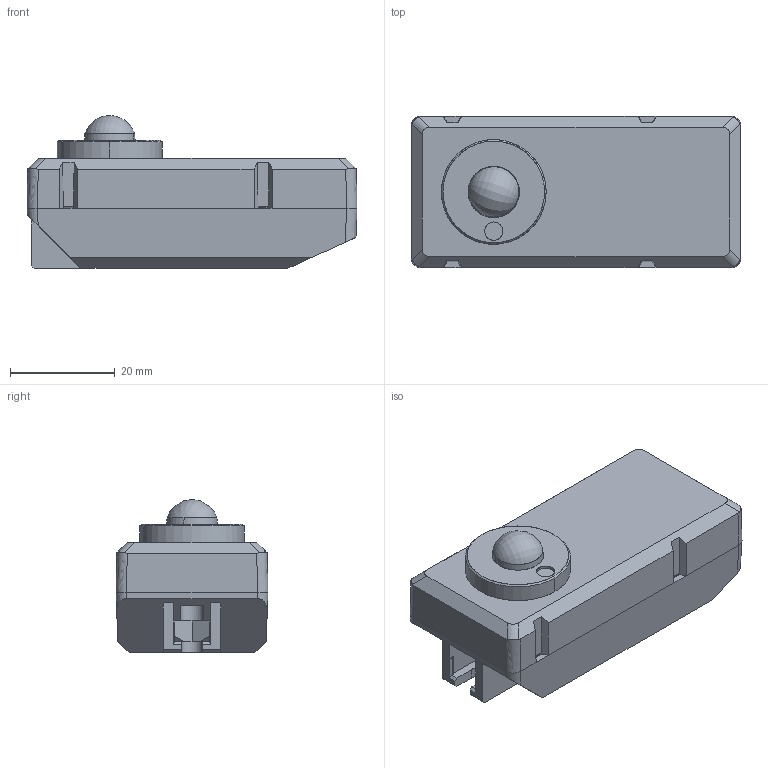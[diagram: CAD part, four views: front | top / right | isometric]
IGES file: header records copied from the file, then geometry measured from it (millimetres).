
Start section: SolidWorks IGES file using analytic representation for surfaces
Global section: file name: C:\Users\Public\HAOSENSOFTWARE\YFTSolidWorksArasPLM-V3.1.1-2023-beta\SaveAs_files\9C1-4547921-000-00.IGS; native system: SolidWorks 2023; preprocessor: SolidWorks 2023; author: P.SACHSENWEGER; date: 250625.091140; units: millimetre
Bounding box: 63 x 29 x 29.18 mm (x, y, z)
Surface area: 10398.3 mm2 (no closed solid volume)
Topology: 0 solids, 0 shells, 408 faces, 3252 edges, 3250 vertices
Faces by surface type: bspline 329, revolution 79
